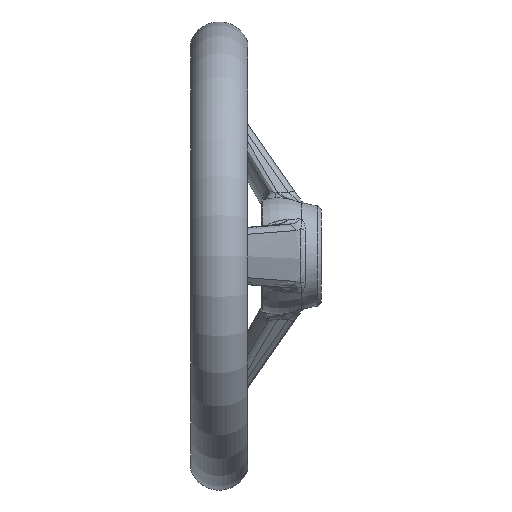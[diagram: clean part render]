
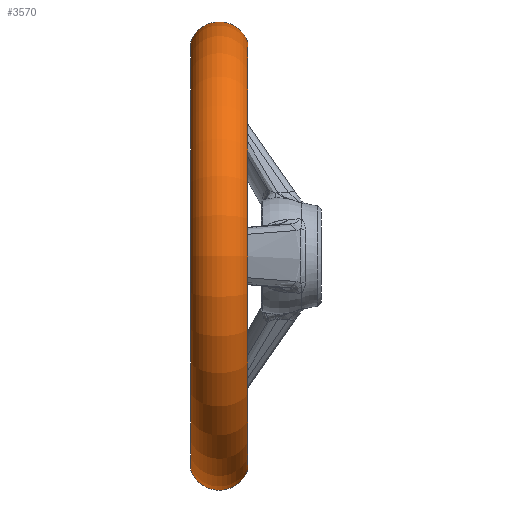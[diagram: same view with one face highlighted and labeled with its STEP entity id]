
A CAD part, left-side view. The second image highlights one B-rep face of the part: STEP entity #3570.
In plain terms, the highlighted toroidal (fillet/blend) face has major radius 60.979 mm and minor radius 9.021 mm.
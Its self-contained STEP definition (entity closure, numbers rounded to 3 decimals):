
#146 = CARTESIAN_POINT ( 'NONE',  ( 0., 30.5, 60.979 ) ) ;
#413 = CARTESIAN_POINT ( 'NONE',  ( 0., 22., 64. ) ) ;
#992 = DIRECTION ( 'NONE',  ( 0., 0., -1. ) ) ;
#1376 = AXIS2_PLACEMENT_3D ( 'NONE', #146, #6015, #992 ) ;
#1583 = VERTEX_POINT ( 'NONE', #7185 ) ;
#1735 = CARTESIAN_POINT ( 'NONE',  ( 0., 30.5, 0. ) ) ;
#2224 = AXIS2_PLACEMENT_3D ( 'NONE', #3799, #9663, #4632 ) ;
#2572 = VERTEX_POINT ( 'NONE', #9225 ) ;
#2589 = DIRECTION ( 'NONE',  ( 0., 0., -1. ) ) ;
#2839 = FACE_OUTER_BOUND ( 'NONE', #5436, .T. ) ;
#3201 = AXIS2_PLACEMENT_3D ( 'NONE', #4393, #10273, #5220 ) ;
#3287 = VERTEX_POINT ( 'NONE', #413 ) ;
#3570 = ADVANCED_FACE ( 'NONE', ( #2839 ), #5044, .T. ) ;
#3799 = CARTESIAN_POINT ( 'NONE',  ( 0., 22., 0. ) ) ;
#4105 = CIRCLE ( 'NONE', #8403, 9.021 ) ;
#4135 = CARTESIAN_POINT ( 'NONE',  ( 0., 22., -64. ) ) ;
#4159 = DIRECTION ( 'NONE',  ( -1., 0., 0. ) ) ;
#4273 = ORIENTED_EDGE ( 'NONE', *, *, #7501, .F. ) ;
#4353 = ORIENTED_EDGE ( 'NONE', *, *, #5737, .T. ) ;
#4393 = CARTESIAN_POINT ( 'NONE',  ( 0., 39., 0. ) ) ;
#4632 = DIRECTION ( 'NONE',  ( 0., 0., -1. ) ) ;
#5044 = TOROIDAL_SURFACE ( 'NONE', #8638, 60.979, 9.021 ) ;
#5220 = DIRECTION ( 'NONE',  ( 0., 0., -1. ) ) ;
#5436 = EDGE_LOOP ( 'NONE', ( #4273, #4353, #6111, #6557 ) ) ;
#5737 = EDGE_CURVE ( 'NONE', #2572, #1583, #7384, .T. ) ;
#5914 = DIRECTION ( 'NONE',  ( 0., -1., 0. ) ) ;
#6015 = DIRECTION ( 'NONE',  ( 1., 0., 0. ) ) ;
#6111 = ORIENTED_EDGE ( 'NONE', *, *, #9010, .T. ) ;
#6557 = ORIENTED_EDGE ( 'NONE', *, *, #8898, .F. ) ;
#6608 = CIRCLE ( 'NONE', #2224, 64. ) ;
#7185 = CARTESIAN_POINT ( 'NONE',  ( 0., 39., -64. ) ) ;
#7384 = CIRCLE ( 'NONE', #3201, 64. ) ;
#7501 = EDGE_CURVE ( 'NONE', #2572, #3287, #10515, .T. ) ;
#8024 = VERTEX_POINT ( 'NONE', #4135 ) ;
#8403 = AXIS2_PLACEMENT_3D ( 'NONE', #9185, #4159, #10024 ) ;
#8638 = AXIS2_PLACEMENT_3D ( 'NONE', #1735, #5914, #2589 ) ;
#8898 = EDGE_CURVE ( 'NONE', #3287, #8024, #6608, .T. ) ;
#9010 = EDGE_CURVE ( 'NONE', #1583, #8024, #4105, .T. ) ;
#9185 = CARTESIAN_POINT ( 'NONE',  ( 0., 30.5, -60.979 ) ) ;
#9225 = CARTESIAN_POINT ( 'NONE',  ( 0., 39., 64. ) ) ;
#9663 = DIRECTION ( 'NONE',  ( 0., -1., 0. ) ) ;
#10024 = DIRECTION ( 'NONE',  ( 0., 0., 1. ) ) ;
#10273 = DIRECTION ( 'NONE',  ( 0., -1., 0. ) ) ;
#10515 = CIRCLE ( 'NONE', #1376, 9.021 ) ;
